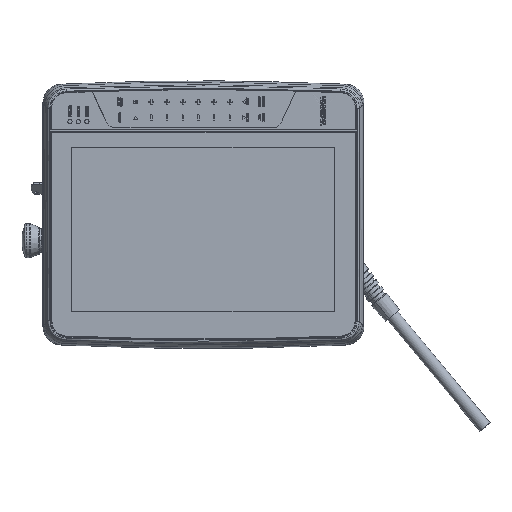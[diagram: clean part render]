
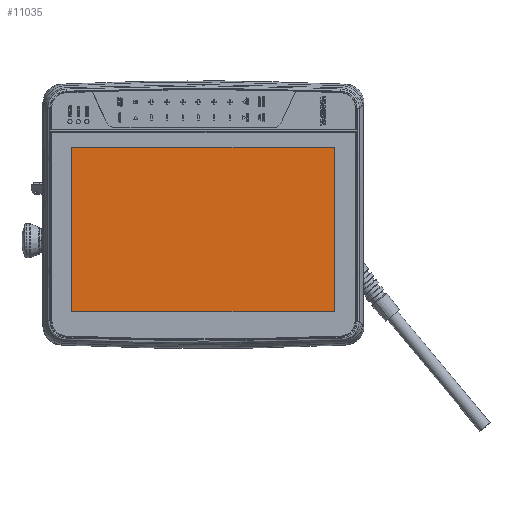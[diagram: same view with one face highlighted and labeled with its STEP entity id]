
A CAD part, top view. The second image highlights one B-rep face of the part: STEP entity #11035.
In plain terms, the highlighted planar face has unit normal (0, 0, 1).
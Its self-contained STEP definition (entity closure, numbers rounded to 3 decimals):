
#11035=ADVANCED_FACE('',(#23285),#23286,.F.);
#23285=FACE_OUTER_BOUND('',#72009,.T.);
#23286=PLANE('',#72010);
#72009=EDGE_LOOP('',(#147339,#147340,#147341,#147342));
#72010=AXIS2_PLACEMENT_3D('',#147343,#147344,#147345);
#147339=ORIENTED_EDGE('',*,*,#168210,.F.);
#147340=ORIENTED_EDGE('',*,*,#168219,.F.);
#147341=ORIENTED_EDGE('',*,*,#168216,.F.);
#147342=ORIENTED_EDGE('',*,*,#168213,.F.);
#147343=CARTESIAN_POINT('',(0.,0.,11.75));
#147344=DIRECTION('',(0.0,0.0,-1.0));
#147345=DIRECTION('',(-1.0,0.0,0.0));
#168210=EDGE_CURVE('',#189977,#189979,#189980,.T.);
#168213=EDGE_CURVE('',#189979,#189983,#189984,.T.);
#168216=EDGE_CURVE('',#189983,#189987,#189988,.T.);
#168219=EDGE_CURVE('',#189987,#189977,#189991,.T.);
#189977=VERTEX_POINT('',#763206);
#189979=VERTEX_POINT('',#763209);
#189980=LINE('',#763210,#763211);
#189983=VERTEX_POINT('',#763215);
#189984=LINE('',#763216,#763217);
#189987=VERTEX_POINT('',#763221);
#189988=LINE('',#763222,#763223);
#189991=LINE('',#763227,#763228);
#763206=CARTESIAN_POINT('',(-109.33,-80.45,11.75));
#763209=CARTESIAN_POINT('',(-109.33,55.85,11.75));
#763210=CARTESIAN_POINT('',(-109.33,-80.45,11.75));
#763211=VECTOR('',#799656,1000.0);
#763215=CARTESIAN_POINT('',(108.33,55.85,11.75));
#763216=CARTESIAN_POINT('',(-109.33,55.85,11.75));
#763217=VECTOR('',#799658,1000.0);
#763221=CARTESIAN_POINT('',(108.33,-80.45,11.75));
#763222=CARTESIAN_POINT('',(108.33,55.85,11.75));
#763223=VECTOR('',#799660,1000.0);
#763227=CARTESIAN_POINT('',(108.33,-80.45,11.75));
#763228=VECTOR('',#799662,1000.0);
#799656=DIRECTION('',(0.,1.0,0.0));
#799658=DIRECTION('',(1.0,0.,0.0));
#799660=DIRECTION('',(0.,-1.0,0.0));
#799662=DIRECTION('',(-1.0,0.,0.0));
